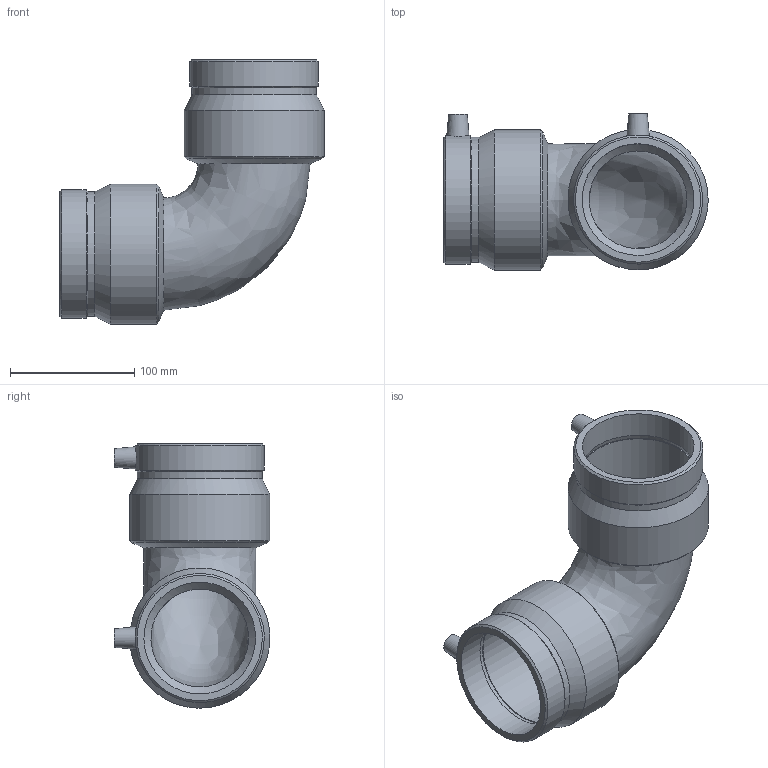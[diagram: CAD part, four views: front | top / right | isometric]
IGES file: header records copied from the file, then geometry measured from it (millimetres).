
Global section: file name: 490504090; native system: Autodesk Inventor 2026; preprocessor: unknown; author: KIM; date: 20260322.131244; units: millimetre
Bounding box: 212.95 x 125.5 x 212.95 mm (x, y, z)
Volume: 670386.4 mm3; surface area: 178992.8 mm2
Topology: 1 solids, 1 shells, 42 faces, 108 edges, 76 vertices
Faces by surface type: bspline 42
